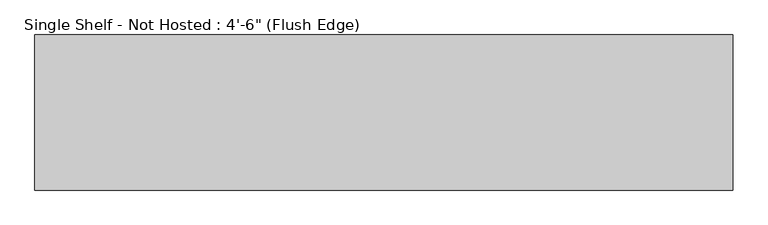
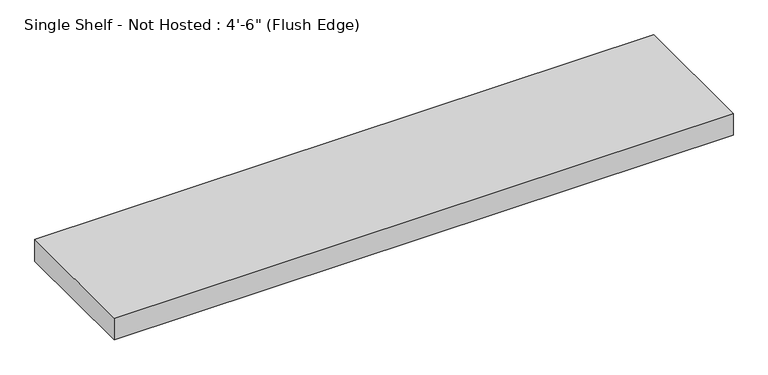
"""IFC4 building model written with IfcOpenShell, lengths in millimetres: furniture geometry."""

from ifc_helpers import new_model, si_unit, frame, origin, place, context, project, spatial, polyline, outline, extrude, source, transform, mapped, element, save


def furniture_e69bb2be(model_context):
    return source(origin(), model_context, "Body", "SweptSolid", [
        extrude(outline(polyline([(704.5377049, -304.8), (704.5377049, -609.6), (-667.0622951, -609.6), (-667.0622951, -304.8), (704.5377049, -304.8)])), frame((0.0, 0.0, 1168.4), z_axis=(0.0, 0.0, 1.0), x_axis=(1.0, 0.0, 0.0)), (0.0, 0.0, 1.0), 50.8),
    ])


if __name__ == "__main__":
    model = new_model("IFC4")
    model_context = context("Model", 3, world=origin())
    ifc_project = project(units=[si_unit("LENGTHUNIT", "METRE", prefix="MILLI")], contexts=[model_context])
    site = spatial("IfcSite", under=ifc_project)
    building = spatial("IfcBuilding", under=site)
    placement = place(None, origin())
    furniture_shape = furniture_e69bb2be(model_context)
    element("IfcFurniture", 1, ObjectType="Single Shelf - Not Hosted : 4'-6\" (Flush Edge)", at=placement, inside=building, context=model_context, shape_type="MappedRepresentation", body=[
        mapped(furniture_shape, transform((0.0, 0.0, 0.0), x_axis=(1.0, 0.0, 0.0), y_axis=(0.0, 1.0, 0.0), z_axis=(0.0, 0.0, 1.0))),
    ])
    save(model, "model.ifc")
